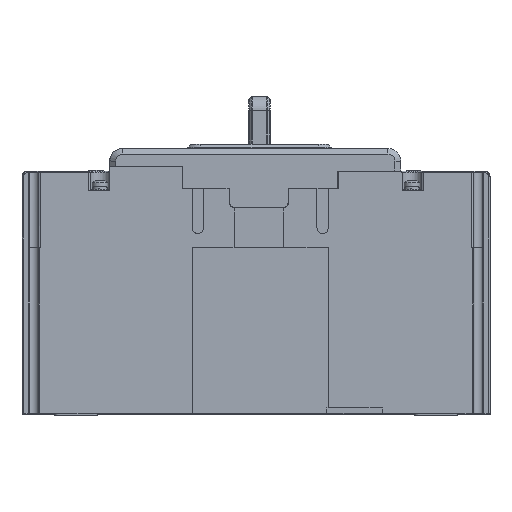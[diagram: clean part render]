
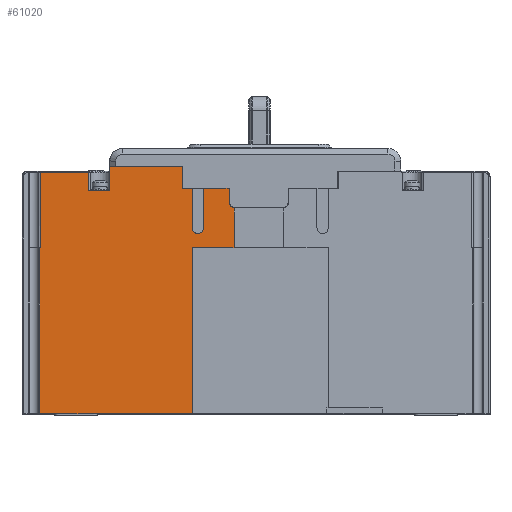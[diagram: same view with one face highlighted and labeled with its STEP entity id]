
A CAD part, top view. The second image highlights one B-rep face of the part: STEP entity #61020.
In plain terms, the highlighted planar face has unit normal (0, 0, 1).
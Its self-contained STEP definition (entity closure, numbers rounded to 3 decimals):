
#8961=DIRECTION('',(0.,1.,0.));
#8962=VECTOR('',#8961,5.);
#8963=CARTESIAN_POINT('',(-9.5,24.7,53.5));
#8964=LINE('',#8963,#8962);
#11913=DIRECTION('',(0.,1.,0.));
#11914=VECTOR('',#11913,7.5);
#11915=CARTESIAN_POINT('',(-26.,29.7,53.5));
#11916=LINE('',#11915,#11914);
#11965=DIRECTION('',(-1.,0.,0.));
#11966=VECTOR('',#11965,3.5);
#11967=CARTESIAN_POINT('',(-22.5,29.7,53.5));
#11968=LINE('',#11967,#11966);
#12009=DIRECTION('',(0.,1.,0.));
#12010=VECTOR('',#12009,14.);
#12011=CARTESIAN_POINT('',(-22.5,15.7,53.5));
#12012=LINE('',#12011,#12010);
#12047=DIRECTION('',(0.,-1.,0.));
#12048=VECTOR('',#12047,14.);
#12049=CARTESIAN_POINT('',(-18.5,29.7,53.5));
#12050=LINE('',#12049,#12048);
#12059=DIRECTION('',(-1.,0.,0.));
#12060=VECTOR('',#12059,9.);
#12061=CARTESIAN_POINT('',(-9.5,29.7,53.5));
#12062=LINE('',#12061,#12060);
#12067=CARTESIAN_POINT('',(-76.174,8.7,53.5));
#12068=CARTESIAN_POINT('',(-76.166,8.7,53.5));
#12069=CARTESIAN_POINT('',(-76.158,8.7,53.5));
#12070=CARTESIAN_POINT('',(-76.151,8.7,53.5));
#12072=DIRECTION('',(0.,1.,0.));
#12073=VECTOR('',#12072,26.5);
#12074=CARTESIAN_POINT('',(-76.151,8.7,53.5));
#12075=LINE('',#12074,#12073);
#12076=CARTESIAN_POINT('',(-20.5,15.7,53.5));
#12077=DIRECTION('',(0.,0.,1.));
#12078=DIRECTION('',(-1.,0.,0.));
#12079=AXIS2_PLACEMENT_3D('',#12076,#12077,#12078);
#12081=CARTESIAN_POINT('',(-20.5,15.7,53.5));
#12082=DIRECTION('',(0.,0.,1.));
#12083=DIRECTION('',(0.,-1.,0.));
#12084=AXIS2_PLACEMENT_3D('',#12081,#12082,#12083);
#12086=CARTESIAN_POINT('',(-7.5,24.7,53.5));
#12087=DIRECTION('',(0.,0.,1.));
#12088=DIRECTION('',(-1.,0.,0.));
#12089=AXIS2_PLACEMENT_3D('',#12086,#12087,#12088);
#12091=DIRECTION('',(-1.,0.,0.));
#12092=VECTOR('',#12091,53.675);
#12093=CARTESIAN_POINT('',(-22.5,-49.8,53.5));
#12094=LINE('',#12093,#12092);
#12119=DIRECTION('',(0.,-1.,0.));
#12120=VECTOR('',#12119,58.5);
#12121=CARTESIAN_POINT('',(-76.174,8.7,53.5));
#12122=LINE('',#12121,#12120);
#13839=DIRECTION('',(-1.,0.,0.));
#13840=VECTOR('',#13839,17.151);
#13841=CARTESIAN_POINT('',(-59.,35.2,53.5));
#13842=LINE('',#13841,#13840);
#13877=DIRECTION('',(0.,-1.,0.));
#13878=VECTOR('',#13877,8.5);
#13879=CARTESIAN_POINT('',(-51.5,37.2,53.5));
#13880=LINE('',#13879,#13878);
#13894=DIRECTION('',(-1.,0.,0.));
#13895=VECTOR('',#13894,7.5);
#13896=CARTESIAN_POINT('',(-51.5,28.7,53.5));
#13897=LINE('',#13896,#13895);
#13903=DIRECTION('',(0.,1.,0.));
#13904=VECTOR('',#13903,6.5);
#13905=CARTESIAN_POINT('',(-59.,28.7,53.5));
#13906=LINE('',#13905,#13904);
#24942=DIRECTION('',(-1.,0.,0.));
#24943=VECTOR('',#24942,25.5);
#24944=CARTESIAN_POINT('',(-26.,37.2,53.5));
#24945=LINE('',#24944,#24943);
#42936=DIRECTION('',(0.,1.,0.));
#42937=VECTOR('',#42936,14.016);
#42938=CARTESIAN_POINT('',(-7.75,8.7,53.5));
#42939=LINE('',#42938,#42937);
#42978=DIRECTION('',(1.,0.,0.));
#42979=VECTOR('',#42978,14.75);
#42980=CARTESIAN_POINT('',(-22.5,8.7,53.5));
#42981=LINE('',#42980,#42979);
#42998=DIRECTION('',(0.,1.,0.));
#42999=VECTOR('',#42998,58.5);
#43000=CARTESIAN_POINT('',(-22.5,-49.8,53.5));
#43001=LINE('',#43000,#42999);
#46956=CARTESIAN_POINT('',(-76.175,-49.8,53.5));
#46957=VERTEX_POINT('',#46956);
#47692=CARTESIAN_POINT('',(-76.174,8.7,53.499));
#47694=VERTEX_POINT('',#47692);
#47699=CARTESIAN_POINT('',(-76.151,8.7,53.5));
#47700=CARTESIAN_POINT('',(-76.151,35.2,53.5));
#47701=VERTEX_POINT('',#47699);
#47702=VERTEX_POINT('',#47700);
#47703=CARTESIAN_POINT('',(-51.5,28.7,53.5));
#47704=CARTESIAN_POINT('',(-59.,28.7,53.5));
#47705=VERTEX_POINT('',#47703);
#47706=VERTEX_POINT('',#47704);
#47707=CARTESIAN_POINT('',(-51.5,37.2,53.5));
#47708=VERTEX_POINT('',#47707);
#47709=CARTESIAN_POINT('',(-22.5,29.7,53.5));
#47710=CARTESIAN_POINT('',(-26.,29.7,53.5));
#47711=VERTEX_POINT('',#47709);
#47712=VERTEX_POINT('',#47710);
#47713=CARTESIAN_POINT('',(-22.5,15.7,53.5));
#47714=CARTESIAN_POINT('',(-20.5,13.7,53.5));
#47715=VERTEX_POINT('',#47713);
#47716=VERTEX_POINT('',#47714);
#47717=CARTESIAN_POINT('',(-18.5,15.7,53.5));
#47718=VERTEX_POINT('',#47717);
#47719=CARTESIAN_POINT('',(-9.5,29.7,53.5));
#47720=CARTESIAN_POINT('',(-18.5,29.7,53.5));
#47721=VERTEX_POINT('',#47719);
#47722=VERTEX_POINT('',#47720);
#47723=CARTESIAN_POINT('',(-9.5,24.7,53.5));
#47724=VERTEX_POINT('',#47723);
#47725=CARTESIAN_POINT('',(-7.75,22.716,53.5));
#47726=VERTEX_POINT('',#47725);
#47727=CARTESIAN_POINT('',(-22.5,-49.8,53.5));
#47728=CARTESIAN_POINT('',(-22.5,8.7,53.5));
#47729=VERTEX_POINT('',#47727);
#47730=VERTEX_POINT('',#47728);
#47731=CARTESIAN_POINT('',(-59.,35.2,53.5));
#47732=VERTEX_POINT('',#47731);
#50511=CARTESIAN_POINT('',(-26.,37.2,53.5));
#50512=VERTEX_POINT('',#50511);
#50537=CARTESIAN_POINT('',(-7.75,8.7,53.5));
#50538=VERTEX_POINT('',#50537);
#60978=CARTESIAN_POINT('',(-41.962,-6.3,53.5));
#60979=DIRECTION('',(0.,0.,1.));
#60980=DIRECTION('',(1.,0.,0.));
#60981=AXIS2_PLACEMENT_3D('',#60978,#60979,#60980);
#60982=PLANE('',#60981);
#60984=ORIENTED_EDGE('',*,*,#60983,.T.);
#60986=ORIENTED_EDGE('',*,*,#60985,.T.);
#60988=ORIENTED_EDGE('',*,*,#60987,.F.);
#60990=ORIENTED_EDGE('',*,*,#60989,.F.);
#60992=ORIENTED_EDGE('',*,*,#60991,.F.);
#60994=ORIENTED_EDGE('',*,*,#60993,.F.);
#60996=ORIENTED_EDGE('',*,*,#60995,.F.);
#60997=ORIENTED_EDGE('',*,*,#60775,.F.);
#60998=ORIENTED_EDGE('',*,*,#60856,.F.);
#60999=ORIENTED_EDGE('',*,*,#60913,.F.);
#61001=ORIENTED_EDGE('',*,*,#61000,.T.);
#61003=ORIENTED_EDGE('',*,*,#61002,.T.);
#61004=ORIENTED_EDGE('',*,*,#60957,.F.);
#61005=ORIENTED_EDGE('',*,*,#60972,.F.);
#61006=ORIENTED_EDGE('',*,*,#57032,.F.);
#61008=ORIENTED_EDGE('',*,*,#61007,.T.);
#61010=ORIENTED_EDGE('',*,*,#61009,.F.);
#61012=ORIENTED_EDGE('',*,*,#61011,.F.);
#61014=ORIENTED_EDGE('',*,*,#61013,.F.);
#61015=ORIENTED_EDGE('',*,*,#58482,.T.);
#61017=ORIENTED_EDGE('',*,*,#61016,.F.);
#61018=EDGE_LOOP('',(#60984,#60986,#60988,#60990,#60992,#60994,#60996,#60997,
#60998,#60999,#61001,#61003,#61004,#61005,#61006,#61008,#61010,#61012,#61014,
#61015,#61017));
#61019=FACE_OUTER_BOUND('',#61018,.F.);
#61020=ADVANCED_FACE('',(#61019),#60982,.T.);
#12071=B_SPLINE_CURVE_WITH_KNOTS('',3,(#12067,#12068,#12069,#12070),
.UNSPECIFIED.,.F.,.F.,(4,4),(0.,1.),.UNSPECIFIED.);
#12080=CIRCLE('',#12079,2.);
#12085=CIRCLE('',#12084,2.);
#12090=CIRCLE('',#12089,2.);
#57032=EDGE_CURVE('',#47724,#47721,#8964,.T.);
#58482=EDGE_CURVE('',#47729,#46957,#12094,.T.);
#60775=EDGE_CURVE('',#47712,#50512,#11916,.T.);
#60856=EDGE_CURVE('',#47711,#47712,#11968,.T.);
#60913=EDGE_CURVE('',#47715,#47711,#12012,.T.);
#60957=EDGE_CURVE('',#47722,#47718,#12050,.T.);
#60972=EDGE_CURVE('',#47721,#47722,#12062,.T.);
#60983=EDGE_CURVE('',#47694,#47701,#12071,.T.);
#60985=EDGE_CURVE('',#47701,#47702,#12075,.T.);
#60987=EDGE_CURVE('',#47732,#47702,#13842,.T.);
#60989=EDGE_CURVE('',#47706,#47732,#13906,.T.);
#60991=EDGE_CURVE('',#47705,#47706,#13897,.T.);
#60993=EDGE_CURVE('',#47708,#47705,#13880,.T.);
#60995=EDGE_CURVE('',#50512,#47708,#24945,.T.);
#61000=EDGE_CURVE('',#47715,#47716,#12080,.T.);
#61002=EDGE_CURVE('',#47716,#47718,#12085,.T.);
#61007=EDGE_CURVE('',#47724,#47726,#12090,.T.);
#61009=EDGE_CURVE('',#50538,#47726,#42939,.T.);
#61011=EDGE_CURVE('',#47730,#50538,#42981,.T.);
#61013=EDGE_CURVE('',#47729,#47730,#43001,.T.);
#61016=EDGE_CURVE('',#47694,#46957,#12122,.T.);
